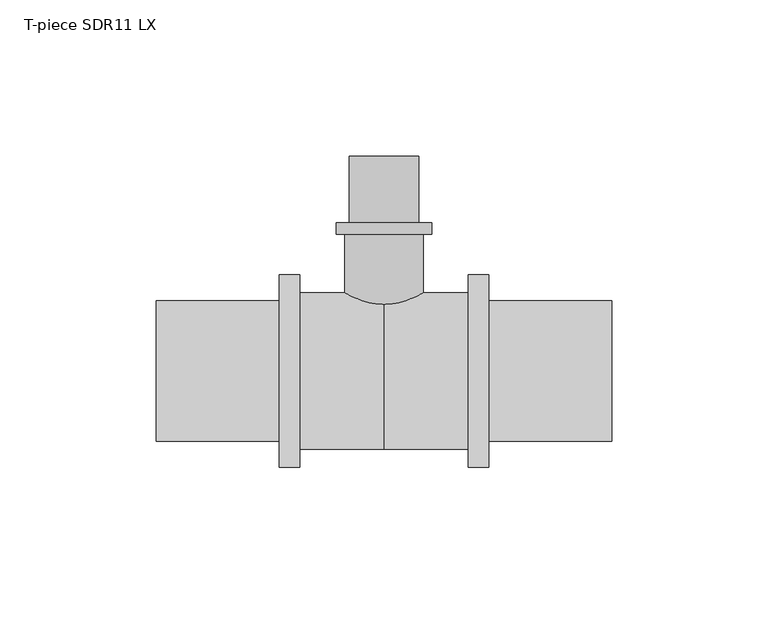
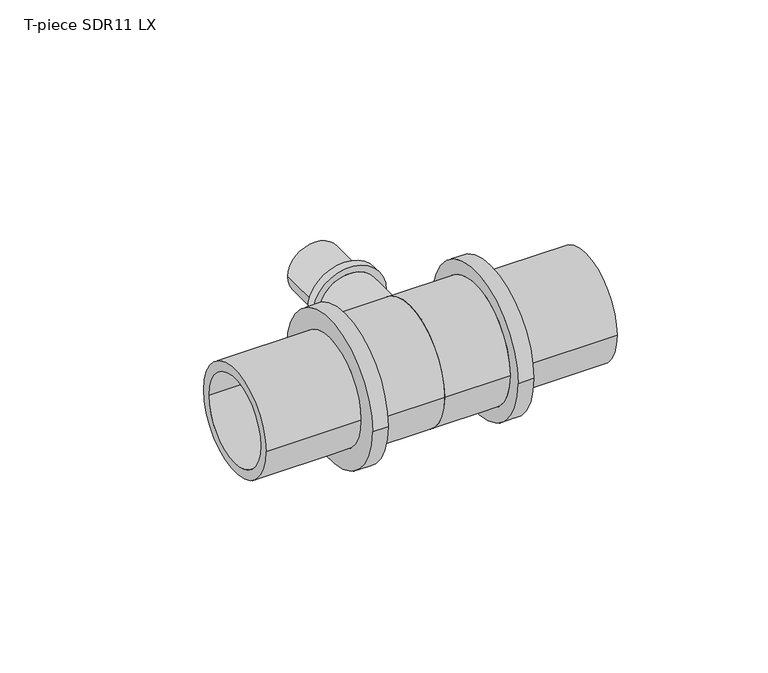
"""IFC4 building model written with IfcOpenShell, lengths in millimetres: pipe fitting geometry, T-piece SDR11 LX : T-piece LX SDR11 LX."""

from ifc_helpers import new_model, si_unit, point, frame, origin, place, context, project, spatial, polyline, circle_curve, ellipse_curve, trimmed, source, transform, mapped, element, save
from ifc_brep_helpers import plane_surface, cylinder_surface, revolved_surface, advanced_brep


def t_piece_sdr11_lx_aa92336d(model_context):
    return source(origin(), model_context, "Body", "AdvancedBrep", [
        advanced_brep(
        [(12.5, 1.0165656, 0.0), (-12.5, 1.0165656, 0.0), (-12.5, 43.6, 0.0), (12.5, 43.6, 0.0), (8.8, 68.5, 0.0), (-8.8, 68.5, 0.0), (-8.8, 0.0, 0.0), (8.8, 0.0, 0.0), (11.15, 47.3, 0.0), (-11.15, 47.3, 0.0), (-11.15, 68.5, 0.0), (11.15, 68.5, 0.0), (15.25, 43.6, 0.0), (-15.25, 43.6, 0.0), (-15.25, 47.3, 0.0), (15.25, 47.3, 0.0)],
        [
            (0, 1, circle_curve(frame((0.0, 1.0165656, 0.0), z_axis=(0.0, 1.0, 0.0), x_axis=(-1.0, 0.0, 0.0)), 12.5)),
            (1, 2),
            (2, 3, circle_curve(frame((0.0, 43.6, 0.0), z_axis=(0.0, -1.0, 0.0), x_axis=(-1.0, 0.0, 0.0)), 12.5)),
            (3, 0),
            (4, 5, circle_curve(frame((0.0, 68.5, 0.0), z_axis=(0.0, 1.0, 0.0), x_axis=(-1.0, 0.0, 0.0)), 8.8)),
            (5, 6),
            (6, 7, circle_curve(frame((0.0, 0.0, 0.0), z_axis=(0.0, -1.0, 0.0), x_axis=(-1.0, 0.0, 0.0)), 8.8)),
            (7, 4),
            (8, 9, circle_curve(frame((0.0, 47.3, 0.0), z_axis=(0.0, 1.0, 0.0), x_axis=(-1.0, 0.0, 0.0)), 11.15)),
            (9, 10),
            (10, 11, circle_curve(frame((0.0, 68.5, 0.0), z_axis=(0.0, -1.0, 0.0), x_axis=(-1.0, 0.0, 0.0)), 11.15)),
            (11, 8),
            (12, 13, circle_curve(frame((0.0, 43.6, 0.0), z_axis=(0.0, 1.0, 0.0), x_axis=(-1.0, 0.0, 0.0)), 15.25)),
            (13, 14),
            (14, 15, circle_curve(frame((0.0, 47.3, 0.0), z_axis=(0.0, -1.0, 0.0), x_axis=(-1.0, 0.0, 0.0)), 15.25)),
            (15, 12),
            (12, 13, circle_curve(frame((0.0, 43.6, 0.0), z_axis=(0.0, -1.0, 0.0), x_axis=(1.0, 0.0, 0.0)), 15.25)),
            (2, 3, circle_curve(frame((0.0, 43.6, 0.0), z_axis=(0.0, 1.0, 0.0), x_axis=(1.0, 0.0, 0.0)), 12.5)),
            (1, 0, circle_curve(frame((0.0, 1.0165656, 0.0), z_axis=(0.0, 1.0, 0.0), x_axis=(1.0, 0.0, 0.0)), 12.5)),
            (5, 4, circle_curve(frame((0.0, 68.5, 0.0), z_axis=(0.0, 1.0, 0.0), x_axis=(1.0, 0.0, 0.0)), 8.8)),
            (7, 6, circle_curve(frame((0.0, 0.0, 0.0), z_axis=(0.0, -1.0, 0.0), x_axis=(1.0, 0.0, 0.0)), 8.8)),
            (10, 11, circle_curve(frame((0.0, 68.5, 0.0), z_axis=(0.0, 1.0, 0.0), x_axis=(1.0, 0.0, 0.0)), 11.15)),
            (9, 8, circle_curve(frame((0.0, 47.3, 0.0), z_axis=(0.0, 1.0, 0.0), x_axis=(1.0, 0.0, 0.0)), 11.15)),
            (14, 15, circle_curve(frame((0.0, 47.3, 0.0), z_axis=(0.0, 1.0, 0.0), x_axis=(1.0, 0.0, 0.0)), 15.25)),
            (6, 1, circle_curve(frame((-4.0462802, 24.5438821, 0.0), z_axis=(0.0, 0.0, -1.0), x_axis=(0.0, -1.0, 0.0)), 25.0)),
            (0, 7, circle_curve(frame((4.0462802, 24.5438821, 0.0), z_axis=(0.0, 0.0, -1.0), x_axis=(0.0, -1.0, 0.0)), 25.0)),
        ],
        [
            cylinder_surface(frame((0.0, 0.0, 0.0), z_axis=(0.0, -1.0, 0.0), x_axis=(-1.0, 0.0, 0.0)), 12.5),
            revolved_surface(polyline([(-8.8, 0.0, 0.0), (-8.8, 68.5, 0.0)]), (0.0, 0.0, 0.0), (0.0, -1.0, 0.0)),
            cylinder_surface(frame((0.0, 0.0, 0.0), z_axis=(0.0, -1.0, 0.0), x_axis=(-1.0, 0.0, 0.0)), 11.15),
            cylinder_surface(frame((0.0, 0.0, 0.0), z_axis=(0.0, -1.0, 0.0), x_axis=(-1.0, 0.0, 0.0)), 15.25),
            plane_surface(frame((0.0, 43.6, 0.0), z_axis=(0.0, -1.0, 0.0), x_axis=(1.0, 0.0, 0.0))),
            cylinder_surface(frame((0.0, 0.0, 0.0), z_axis=(0.0, -1.0, 0.0), x_axis=(1.0, 0.0, 0.0)), 12.5),
            revolved_surface(polyline([(8.8, 0.0, 0.0), (8.8, 68.5, 0.0)]), (0.0, 0.0, 0.0), (0.0, -1.0, 0.0)),
            plane_surface(frame((0.0, 68.5, 0.0), z_axis=(0.0, 1.0, 0.0), x_axis=(1.0, 0.0, 0.0))),
            cylinder_surface(frame((0.0, 0.0, 0.0), z_axis=(0.0, -1.0, 0.0), x_axis=(1.0, 0.0, 0.0)), 11.15),
            plane_surface(frame((0.0, 47.3, 0.0), z_axis=(0.0, 1.0, 0.0), x_axis=(1.0, 0.0, 0.0))),
            cylinder_surface(frame((0.0, 0.0, 0.0), z_axis=(0.0, -1.0, 0.0), x_axis=(1.0, 0.0, 0.0)), 15.25),
            revolved_surface(trimmed(ellipse_curve(frame((-4.0462802, 24.5438821, 0.0), z_axis=(0.0, 0.0, 1.0), x_axis=(0.0, -1.0, 0.0)), 25.0, 25.0), [point((-12.5, 1.0165656, 0.0))], [point((-8.8, 0.0, 0.0))], True, "CARTESIAN"), (0.0, 0.0, 0.0), (0.0, -1.0, 0.0)),
            revolved_surface(trimmed(ellipse_curve(frame((4.0462802, 24.5438821, 0.0), z_axis=(0.0, 0.0, -1.0), x_axis=(0.0, -1.0, 0.0)), 25.0, 25.0), [point((12.5, 1.0165656, 0.0))], [point((8.8, 0.0, 0.0))], True, "CARTESIAN"), (0.0, 0.0, 0.0), (0.0, -1.0, 0.0)),
        ],
        [
            (0, [[1, 2, 3, 4]]),
            (1, [[5, 6, 7, 8]]),
            (2, [[9, 10, 11, 12]]),
            (3, [[13, 14, 15, 16]]),
            (4, [[17, -13], [18, -3]]),
            (5, [[19, -4, -18, -2]]),
            (6, [[20, -8, 21, -6]]),
            (7, [[22, -11], [-20, -5]]),
            (8, [[23, -12, -22, -10]]),
            (9, [[24, -15], [-23, -9]]),
            (10, [[-17, -16, -24, -14]]),
            (11, [[-7, 25, -1, 26]]),
            (12, [[-21, -26, -19, -25]]),
        ],
    ),
        advanced_brep(
        [(26.9, 25.0, 0.0), (26.9, -25.0, 0.0), (0.0, -25.0, 0.0), (0.0, 25.0, 0.0), (0.0, 18.5, 0.0), (0.0, -18.5, 0.0), (72.7, -18.5, 0.0), (72.7, 18.5, 0.0), (72.7, 22.45, 0.0), (72.7, -22.45, 0.0), (33.4, -22.45, 0.0), (33.4, 22.45, 0.0), (33.4, 30.75, 0.0), (33.4, -30.75, 0.0), (26.9, -30.75, 0.0), (26.9, 30.75, 0.0)],
        [
            (0, 1, circle_curve(frame((26.9, 0.0, 0.0), z_axis=(-1.0, 0.0, 0.0), x_axis=(0.0, -1.0, 0.0)), 25.0)),
            (1, 2),
            (2, 3, circle_curve(frame((0.0, 0.0, 0.0), z_axis=(1.0, 0.0, 0.0), x_axis=(0.0, -1.0, 0.0)), 25.0)),
            (3, 0),
            (4, 5, circle_curve(frame((0.0, 0.0, 0.0), z_axis=(-1.0, 0.0, 0.0), x_axis=(0.0, -1.0, 0.0)), 18.5)),
            (5, 6),
            (6, 7, circle_curve(frame((72.7, 0.0, 0.0), z_axis=(1.0, 0.0, 0.0), x_axis=(0.0, -1.0, 0.0)), 18.5)),
            (7, 4),
            (8, 9, circle_curve(frame((72.7, 0.0, 0.0), z_axis=(-1.0, 0.0, 0.0), x_axis=(0.0, -1.0, 0.0)), 22.45)),
            (9, 10),
            (10, 11, circle_curve(frame((33.4, 0.0, 0.0), z_axis=(1.0, 0.0, 0.0), x_axis=(0.0, -1.0, 0.0)), 22.45)),
            (11, 8),
            (12, 13, circle_curve(frame((33.4, 0.0, 0.0), z_axis=(-1.0, 0.0, 0.0), x_axis=(0.0, -1.0, 0.0)), 30.75)),
            (13, 14),
            (14, 15, circle_curve(frame((26.9, 0.0, 0.0), z_axis=(1.0, 0.0, 0.0), x_axis=(0.0, -1.0, 0.0)), 30.75)),
            (15, 12),
            (14, 15, circle_curve(frame((26.9, 0.0, 0.0), z_axis=(-1.0, 0.0, 0.0), x_axis=(0.0, 1.0, 0.0)), 30.75)),
            (0, 1, circle_curve(frame((26.9, 0.0, 0.0), z_axis=(1.0, 0.0, 0.0), x_axis=(0.0, 1.0, 0.0)), 25.0)),
            (3, 2, circle_curve(frame((0.0, 0.0, 0.0), z_axis=(1.0, 0.0, 0.0), x_axis=(0.0, 1.0, 0.0)), 25.0)),
            (4, 5, circle_curve(frame((0.0, 0.0, 0.0), z_axis=(1.0, 0.0, 0.0), x_axis=(0.0, 1.0, 0.0)), 18.5)),
            (7, 6, circle_curve(frame((72.7, 0.0, 0.0), z_axis=(1.0, 0.0, 0.0), x_axis=(0.0, 1.0, 0.0)), 18.5)),
            (8, 9, circle_curve(frame((72.7, 0.0, 0.0), z_axis=(1.0, 0.0, 0.0), x_axis=(0.0, 1.0, 0.0)), 22.45)),
            (11, 10, circle_curve(frame((33.4, 0.0, 0.0), z_axis=(1.0, 0.0, 0.0), x_axis=(0.0, 1.0, 0.0)), 22.45)),
            (12, 13, circle_curve(frame((33.4, 0.0, 0.0), z_axis=(1.0, 0.0, 0.0), x_axis=(0.0, 1.0, 0.0)), 30.75)),
        ],
        [
            cylinder_surface(frame((0.0, 0.0, 0.0), z_axis=(1.0, 0.0, 0.0), x_axis=(0.0, -1.0, 0.0)), 25.0),
            revolved_surface(polyline([(72.7, -18.5, 0.0), (0.0, -18.5, 0.0)]), (0.0, 0.0, 0.0), (1.0, 0.0, 0.0)),
            cylinder_surface(frame((0.0, 0.0, 0.0), z_axis=(1.0, 0.0, 0.0), x_axis=(0.0, -1.0, 0.0)), 22.45),
            cylinder_surface(frame((0.0, 0.0, 0.0), z_axis=(1.0, 0.0, 0.0), x_axis=(0.0, -1.0, 0.0)), 30.75),
            plane_surface(frame((26.9, 0.0, 0.0), z_axis=(-1.0, 0.0, 0.0), x_axis=(0.0, 1.0, 0.0))),
            cylinder_surface(frame((0.0, 0.0, 0.0), z_axis=(1.0, 0.0, 0.0), x_axis=(0.0, 1.0, 0.0)), 25.0),
            plane_surface(frame((0.0, 0.0, 0.0), z_axis=(-1.0, 0.0, 0.0), x_axis=(0.0, 1.0, 0.0))),
            revolved_surface(polyline([(72.7, 18.5, 0.0), (0.0, 18.5, 0.0)]), (0.0, 0.0, 0.0), (1.0, 0.0, 0.0)),
            plane_surface(frame((72.7, 0.0, 0.0), z_axis=(1.0, 0.0, 0.0), x_axis=(0.0, 1.0, 0.0))),
            cylinder_surface(frame((0.0, 0.0, 0.0), z_axis=(1.0, 0.0, 0.0), x_axis=(0.0, 1.0, 0.0)), 22.45),
            plane_surface(frame((33.4, 0.0, 0.0), z_axis=(1.0, 0.0, 0.0), x_axis=(0.0, 1.0, 0.0))),
            cylinder_surface(frame((0.0, 0.0, 0.0), z_axis=(1.0, 0.0, 0.0), x_axis=(0.0, 1.0, 0.0)), 30.75),
        ],
        [
            (0, [[1, 2, 3, 4]]),
            (1, [[5, 6, 7, 8]]),
            (2, [[9, 10, 11, 12]]),
            (3, [[13, 14, 15, 16]]),
            (4, [[17, -15], [18, -1]]),
            (5, [[-18, -4, 19, -2]]),
            (6, [[-19, -3], [20, -5]]),
            (7, [[-20, -8, 21, -6]]),
            (8, [[22, -9], [-21, -7]]),
            (9, [[-22, -12, 23, -10]]),
            (10, [[24, -13], [-23, -11]]),
            (11, [[-24, -16, -17, -14]]),
        ],
    ),
        advanced_brep(
        [(0.0, 25.0, 0.0), (0.0, -25.0, 0.0), (-26.9, -25.0, 0.0), (-26.9, 25.0, 0.0), (-72.7, 18.5, 0.0), (-72.7, -18.5, 0.0), (0.0, -18.5, 0.0), (0.0, 18.5, 0.0), (-33.4, 22.45, 0.0), (-33.4, -22.45, 0.0), (-72.7, -22.45, 0.0), (-72.7, 22.45, 0.0), (-26.9, 30.75, 0.0), (-26.9, -30.75, 0.0), (-33.4, -30.75, 0.0), (-33.4, 30.75, 0.0)],
        [
            (0, 1, circle_curve(frame((0.0, 0.0, 0.0), z_axis=(-1.0, 0.0, 0.0), x_axis=(0.0, -1.0, 0.0)), 25.0)),
            (1, 2),
            (2, 3, circle_curve(frame((-26.9, 0.0, 0.0), z_axis=(1.0, 0.0, 0.0), x_axis=(0.0, -1.0, 0.0)), 25.0)),
            (3, 0),
            (4, 5, circle_curve(frame((-72.7, 0.0, 0.0), z_axis=(-1.0, 0.0, 0.0), x_axis=(0.0, -1.0, 0.0)), 18.5)),
            (5, 6),
            (6, 7, circle_curve(frame((0.0, 0.0, 0.0), z_axis=(1.0, 0.0, 0.0), x_axis=(0.0, -1.0, 0.0)), 18.5)),
            (7, 4),
            (8, 9, circle_curve(frame((-33.4, 0.0, 0.0), z_axis=(-1.0, 0.0, 0.0), x_axis=(0.0, -1.0, 0.0)), 22.45)),
            (9, 10),
            (10, 11, circle_curve(frame((-72.7, 0.0, 0.0), z_axis=(1.0, 0.0, 0.0), x_axis=(0.0, -1.0, 0.0)), 22.45)),
            (11, 8),
            (12, 13, circle_curve(frame((-26.9, 0.0, 0.0), z_axis=(-1.0, 0.0, 0.0), x_axis=(0.0, -1.0, 0.0)), 30.75)),
            (13, 14),
            (14, 15, circle_curve(frame((-33.4, 0.0, 0.0), z_axis=(1.0, 0.0, 0.0), x_axis=(0.0, -1.0, 0.0)), 30.75)),
            (15, 12),
            (12, 13, circle_curve(frame((-26.9, 0.0, 0.0), z_axis=(1.0, 0.0, 0.0), x_axis=(0.0, 1.0, 0.0)), 30.75)),
            (2, 3, circle_curve(frame((-26.9, 0.0, 0.0), z_axis=(-1.0, 0.0, 0.0), x_axis=(0.0, 1.0, 0.0)), 25.0)),
            (1, 0, circle_curve(frame((0.0, 0.0, 0.0), z_axis=(-1.0, 0.0, 0.0), x_axis=(0.0, 1.0, 0.0)), 25.0)),
            (6, 7, circle_curve(frame((0.0, 0.0, 0.0), z_axis=(-1.0, 0.0, 0.0), x_axis=(0.0, 1.0, 0.0)), 18.5)),
            (5, 4, circle_curve(frame((-72.7, 0.0, 0.0), z_axis=(-1.0, 0.0, 0.0), x_axis=(0.0, 1.0, 0.0)), 18.5)),
            (10, 11, circle_curve(frame((-72.7, 0.0, 0.0), z_axis=(-1.0, 0.0, 0.0), x_axis=(0.0, 1.0, 0.0)), 22.45)),
            (9, 8, circle_curve(frame((-33.4, 0.0, 0.0), z_axis=(-1.0, 0.0, 0.0), x_axis=(0.0, 1.0, 0.0)), 22.45)),
            (14, 15, circle_curve(frame((-33.4, 0.0, 0.0), z_axis=(-1.0, 0.0, 0.0), x_axis=(0.0, 1.0, 0.0)), 30.75)),
        ],
        [
            cylinder_surface(frame((0.0, 0.0, 0.0), z_axis=(1.0, 0.0, 0.0), x_axis=(0.0, -1.0, 0.0)), 25.0),
            revolved_surface(polyline([(0.0, -18.5, 0.0), (-72.7, -18.5, 0.0)]), (0.0, 0.0, 0.0), (1.0, 0.0, 0.0)),
            cylinder_surface(frame((0.0, 0.0, 0.0), z_axis=(1.0, 0.0, 0.0), x_axis=(0.0, -1.0, 0.0)), 22.45),
            cylinder_surface(frame((0.0, 0.0, 0.0), z_axis=(1.0, 0.0, 0.0), x_axis=(0.0, -1.0, 0.0)), 30.75),
            plane_surface(frame((-26.9, 0.0, 0.0), z_axis=(1.0, 0.0, 0.0), x_axis=(0.0, 1.0, 0.0))),
            cylinder_surface(frame((0.0, 0.0, 0.0), z_axis=(1.0, 0.0, 0.0), x_axis=(0.0, 1.0, 0.0)), 25.0),
            plane_surface(frame((0.0, 0.0, 0.0), z_axis=(1.0, 0.0, 0.0), x_axis=(0.0, 1.0, 0.0))),
            revolved_surface(polyline([(0.0, 18.5, 0.0), (-72.7, 18.5, 0.0)]), (0.0, 0.0, 0.0), (1.0, 0.0, 0.0)),
            plane_surface(frame((-72.7, 0.0, 0.0), z_axis=(-1.0, 0.0, 0.0), x_axis=(0.0, 1.0, 0.0))),
            cylinder_surface(frame((0.0, 0.0, 0.0), z_axis=(1.0, 0.0, 0.0), x_axis=(0.0, 1.0, 0.0)), 22.45),
            plane_surface(frame((-33.4, 0.0, 0.0), z_axis=(-1.0, 0.0, 0.0), x_axis=(0.0, 1.0, 0.0))),
            cylinder_surface(frame((0.0, 0.0, 0.0), z_axis=(1.0, 0.0, 0.0), x_axis=(0.0, 1.0, 0.0)), 30.75),
        ],
        [
            (0, [[1, 2, 3, 4]]),
            (1, [[5, 6, 7, 8]]),
            (2, [[9, 10, 11, 12]]),
            (3, [[13, 14, 15, 16]]),
            (4, [[17, -13], [18, -3]]),
            (5, [[19, -4, -18, -2]]),
            (6, [[-19, -1], [20, -7]]),
            (7, [[21, -8, -20, -6]]),
            (8, [[22, -11], [-21, -5]]),
            (9, [[23, -12, -22, -10]]),
            (10, [[24, -15], [-23, -9]]),
            (11, [[-17, -16, -24, -14]]),
        ],
    ),
    ])


if __name__ == "__main__":
    model = new_model("IFC4")
    model_context = context("Model", 3, world=origin())
    ifc_project = project(units=[si_unit("LENGTHUNIT", "METRE", prefix="MILLI")], contexts=[model_context])
    site = spatial("IfcSite", under=ifc_project)
    building = spatial("IfcBuilding", under=site)
    placement = place(None, origin())
    t_piece_sdr11_lx_shape = t_piece_sdr11_lx_aa92336d(model_context)
    element("IfcPipeFitting", 1, ObjectType="T-piece SDR11 LX : T-piece LX SDR11 LX", at=placement, inside=building, context=model_context, shape_type="MappedRepresentation", body=[
        mapped(t_piece_sdr11_lx_shape, transform((0.0, 0.0, 0.0), x_axis=(1.0, 0.0, 0.0), y_axis=(0.0, 1.0, 0.0), z_axis=(0.0, 0.0, 1.0))),
    ])
    save(model, "model.ifc")
